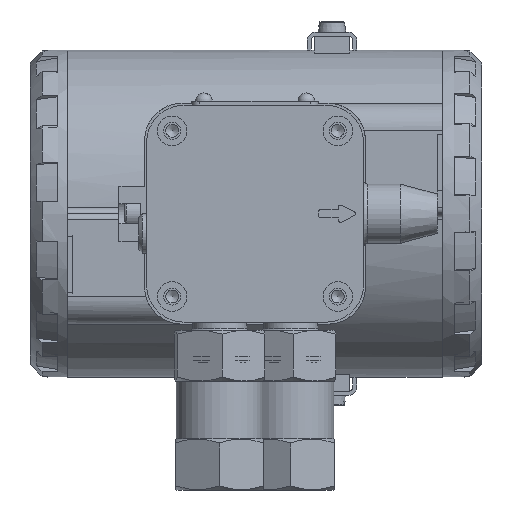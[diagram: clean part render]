
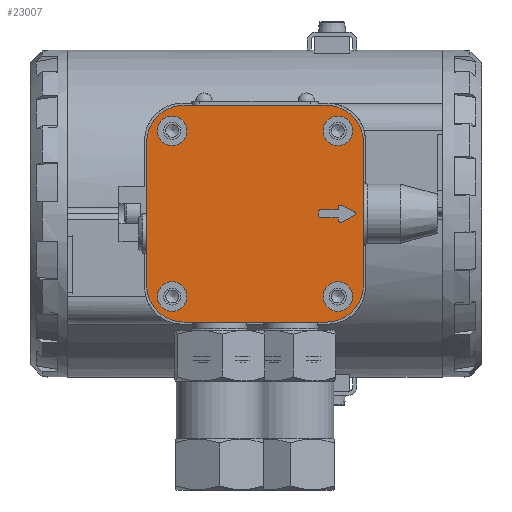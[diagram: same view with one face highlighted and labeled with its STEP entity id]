
A CAD part, left-side view. The second image highlights one B-rep face of the part: STEP entity #23007.
In plain terms, the highlighted planar face has unit normal (-1, 0, 0) as drawn and (0, 0, -1) by its records, which use the part's own axes.
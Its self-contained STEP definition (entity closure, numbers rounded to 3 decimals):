
#1140=FACE_BOUND('',#4001,.T.);
#1141=FACE_BOUND('',#4002,.T.);
#1142=FACE_BOUND('',#4003,.T.);
#1143=FACE_BOUND('',#4004,.T.);
#1144=FACE_BOUND('',#4005,.T.);
#1468=PLANE('',#26352);
#2481=FACE_OUTER_BOUND('',#4000,.T.);
#4000=EDGE_LOOP('',(#18716,#18717,#18718,#18719,#18720,#18721,#18722,#18723));
#4001=EDGE_LOOP('',(#18724,#18725,#18726,#18727,#18728,#18729,#18730,#18731,
#18732,#18733,#18734,#18735));
#4002=EDGE_LOOP('',(#18736));
#4003=EDGE_LOOP('',(#18737));
#4004=EDGE_LOOP('',(#18738));
#4005=EDGE_LOOP('',(#18739));
#5717=CIRCLE('',#26262,0.5);
#5719=CIRCLE('',#26266,0.5);
#5721=CIRCLE('',#26271,0.5);
#5723=CIRCLE('',#26275,0.5);
#5725=CIRCLE('',#26279,0.5);
#5726=CIRCLE('',#26283,3.75);
#5729=CIRCLE('',#26288,3.75);
#5732=CIRCLE('',#26293,3.75);
#5735=CIRCLE('',#26298,3.75);
#5759=CIRCLE('',#26339,9.5);
#5761=CIRCLE('',#26342,9.5);
#5763=CIRCLE('',#26346,9.5);
#5765=CIRCLE('',#26350,9.5);
#6860=LINE('',#40047,#8278);
#6864=LINE('',#40059,#8282);
#6868=LINE('',#40071,#8286);
#6871=LINE('',#40077,#8289);
#6875=LINE('',#40089,#8293);
#6879=LINE('',#40101,#8297);
#6883=LINE('',#40111,#8301);
#6897=LINE('',#40248,#8315);
#6906=LINE('',#40282,#8324);
#6910=LINE('',#40294,#8328);
#6913=LINE('',#40303,#8331);
#8278=VECTOR('',#31615,10.);
#8282=VECTOR('',#31627,10.);
#8286=VECTOR('',#31639,10.);
#8289=VECTOR('',#31644,10.);
#8293=VECTOR('',#31656,10.);
#8297=VECTOR('',#31668,10.);
#8301=VECTOR('',#31680,10.);
#8315=VECTOR('',#31790,10.);
#8324=VECTOR('',#31829,10.);
#8328=VECTOR('',#31841,10.);
#8331=VECTOR('',#31852,10.);
#10583=VERTEX_POINT('',#40044);
#10584=VERTEX_POINT('',#40046);
#10586=VERTEX_POINT('',#40052);
#10588=VERTEX_POINT('',#40058);
#10590=VERTEX_POINT('',#40064);
#10592=VERTEX_POINT('',#40070);
#10594=VERTEX_POINT('',#40076);
#10596=VERTEX_POINT('',#40082);
#10598=VERTEX_POINT('',#40088);
#10600=VERTEX_POINT('',#40094);
#10602=VERTEX_POINT('',#40100);
#10604=VERTEX_POINT('',#40106);
#10605=VERTEX_POINT('',#40114);
#10608=VERTEX_POINT('',#40123);
#10611=VERTEX_POINT('',#40132);
#10614=VERTEX_POINT('',#40141);
#10638=VERTEX_POINT('',#40245);
#10639=VERTEX_POINT('',#40247);
#10645=VERTEX_POINT('',#40268);
#10647=VERTEX_POINT('',#40274);
#10649=VERTEX_POINT('',#40280);
#10651=VERTEX_POINT('',#40286);
#10653=VERTEX_POINT('',#40292);
#10655=VERTEX_POINT('',#40298);
#13438=EDGE_CURVE('',#10584,#10583,#6860,.T.);
#13441=EDGE_CURVE('',#10586,#10584,#5717,.T.);
#13444=EDGE_CURVE('',#10588,#10586,#6864,.T.);
#13447=EDGE_CURVE('',#10590,#10588,#5719,.T.);
#13450=EDGE_CURVE('',#10592,#10590,#6868,.T.);
#13453=EDGE_CURVE('',#10594,#10592,#6871,.T.);
#13456=EDGE_CURVE('',#10596,#10594,#5721,.T.);
#13459=EDGE_CURVE('',#10598,#10596,#6875,.T.);
#13462=EDGE_CURVE('',#10600,#10598,#5723,.T.);
#13465=EDGE_CURVE('',#10602,#10600,#6879,.T.);
#13468=EDGE_CURVE('',#10604,#10602,#5725,.T.);
#13471=EDGE_CURVE('',#10583,#10604,#6883,.T.);
#13472=EDGE_CURVE('',#10605,#10605,#5726,.T.);
#13476=EDGE_CURVE('',#10608,#10608,#5729,.T.);
#13480=EDGE_CURVE('',#10611,#10611,#5732,.T.);
#13484=EDGE_CURVE('',#10614,#10614,#5735,.T.);
#13517=EDGE_CURVE('',#10638,#10639,#6897,.T.);
#13527=EDGE_CURVE('',#10639,#10645,#5759,.T.);
#13531=EDGE_CURVE('',#10647,#10638,#5761,.T.);
#13534=EDGE_CURVE('',#10649,#10647,#6906,.T.);
#13537=EDGE_CURVE('',#10651,#10649,#5763,.T.);
#13540=EDGE_CURVE('',#10653,#10651,#6910,.T.);
#13543=EDGE_CURVE('',#10655,#10653,#5765,.T.);
#13545=EDGE_CURVE('',#10645,#10655,#6913,.T.);
#18716=ORIENTED_EDGE('',*,*,#13545,.F.);
#18717=ORIENTED_EDGE('',*,*,#13527,.F.);
#18718=ORIENTED_EDGE('',*,*,#13517,.F.);
#18719=ORIENTED_EDGE('',*,*,#13531,.F.);
#18720=ORIENTED_EDGE('',*,*,#13534,.F.);
#18721=ORIENTED_EDGE('',*,*,#13537,.F.);
#18722=ORIENTED_EDGE('',*,*,#13540,.F.);
#18723=ORIENTED_EDGE('',*,*,#13543,.F.);
#18724=ORIENTED_EDGE('',*,*,#13438,.T.);
#18725=ORIENTED_EDGE('',*,*,#13471,.T.);
#18726=ORIENTED_EDGE('',*,*,#13468,.T.);
#18727=ORIENTED_EDGE('',*,*,#13465,.T.);
#18728=ORIENTED_EDGE('',*,*,#13462,.T.);
#18729=ORIENTED_EDGE('',*,*,#13459,.T.);
#18730=ORIENTED_EDGE('',*,*,#13456,.T.);
#18731=ORIENTED_EDGE('',*,*,#13453,.T.);
#18732=ORIENTED_EDGE('',*,*,#13450,.T.);
#18733=ORIENTED_EDGE('',*,*,#13447,.T.);
#18734=ORIENTED_EDGE('',*,*,#13444,.T.);
#18735=ORIENTED_EDGE('',*,*,#13441,.T.);
#18736=ORIENTED_EDGE('',*,*,#13472,.T.);
#18737=ORIENTED_EDGE('',*,*,#13476,.T.);
#18738=ORIENTED_EDGE('',*,*,#13480,.T.);
#18739=ORIENTED_EDGE('',*,*,#13484,.T.);
#23007=ADVANCED_FACE('',(#2481,#1140,#1141,#1142,#1143,#1144),#1468,.F.);
#26262=AXIS2_PLACEMENT_3D('',#40053,#31621,#31622);
#26266=AXIS2_PLACEMENT_3D('',#40065,#31633,#31634);
#26271=AXIS2_PLACEMENT_3D('',#40083,#31650,#31651);
#26275=AXIS2_PLACEMENT_3D('',#40095,#31662,#31663);
#26279=AXIS2_PLACEMENT_3D('',#40107,#31674,#31675);
#26283=AXIS2_PLACEMENT_3D('',#40115,#31685,#31686);
#26288=AXIS2_PLACEMENT_3D('',#40124,#31696,#31697);
#26293=AXIS2_PLACEMENT_3D('',#40133,#31707,#31708);
#26298=AXIS2_PLACEMENT_3D('',#40142,#31718,#31719);
#26339=AXIS2_PLACEMENT_3D('',#40269,#31815,#31816);
#26342=AXIS2_PLACEMENT_3D('',#40276,#31823,#31824);
#26346=AXIS2_PLACEMENT_3D('',#40288,#31835,#31836);
#26350=AXIS2_PLACEMENT_3D('',#40300,#31847,#31848);
#26352=AXIS2_PLACEMENT_3D('',#40304,#31853,#31854);
#31615=DIRECTION('',(1.,0.,0.));
#31621=DIRECTION('center_axis',(0.,0.,1.));
#31622=DIRECTION('ref_axis',(0.,-1.,0.));
#31627=DIRECTION('',(0.,-1.,0.));
#31633=DIRECTION('center_axis',(0.,0.,1.));
#31634=DIRECTION('ref_axis',(-1.,0.,0.));
#31639=DIRECTION('',(-1.,0.,0.));
#31644=DIRECTION('',(0.,-1.,0.));
#31650=DIRECTION('center_axis',(0.,0.,1.));
#31651=DIRECTION('ref_axis',(-1.,0.,0.));
#31656=DIRECTION('',(-0.894,0.447,0.));
#31662=DIRECTION('center_axis',(0.,0.,1.));
#31663=DIRECTION('ref_axis',(0.447,0.894,0.));
#31668=DIRECTION('',(0.894,0.447,0.));
#31674=DIRECTION('center_axis',(0.,0.,1.));
#31675=DIRECTION('ref_axis',(0.447,-0.894,0.));
#31680=DIRECTION('',(0.,-1.,0.));
#31685=DIRECTION('center_axis',(0.,0.,1.));
#31686=DIRECTION('ref_axis',(1.,0.,0.));
#31696=DIRECTION('center_axis',(0.,0.,1.));
#31697=DIRECTION('ref_axis',(1.,0.,0.));
#31707=DIRECTION('center_axis',(0.,0.,1.));
#31708=DIRECTION('ref_axis',(1.,0.,0.));
#31718=DIRECTION('center_axis',(0.,0.,1.));
#31719=DIRECTION('ref_axis',(1.,0.,0.));
#31790=DIRECTION('',(0.,1.,0.));
#31815=DIRECTION('center_axis',(0.,0.,1.));
#31816=DIRECTION('ref_axis',(1.,0.,0.));
#31823=DIRECTION('center_axis',(0.,0.,1.));
#31824=DIRECTION('ref_axis',(0.,-1.,0.));
#31829=DIRECTION('',(1.,0.,0.));
#31835=DIRECTION('center_axis',(0.,0.,1.));
#31836=DIRECTION('ref_axis',(-1.,0.,0.));
#31841=DIRECTION('',(0.,-1.,0.));
#31847=DIRECTION('center_axis',(0.,0.,1.));
#31848=DIRECTION('ref_axis',(0.,1.,0.));
#31852=DIRECTION('',(-1.,0.,0.));
#31853=DIRECTION('center_axis',(0.,0.,1.));
#31854=DIRECTION('ref_axis',(1.,0.,0.));
#40044=CARTESIAN_POINT('',(21.109,-1.,0.));
#40046=CARTESIAN_POINT('',(16.609,-1.,0.));
#40047=CARTESIAN_POINT('',(10.554,-1.,0.));
#40052=CARTESIAN_POINT('',(16.109,-0.5,0.));
#40053=CARTESIAN_POINT('Origin',(16.609,-0.5,0.));
#40058=CARTESIAN_POINT('',(16.109,0.5,0.));
#40059=CARTESIAN_POINT('',(16.109,-0.25,0.));
#40064=CARTESIAN_POINT('',(16.609,1.,0.));
#40065=CARTESIAN_POINT('Origin',(16.609,0.5,0.));
#40070=CARTESIAN_POINT('',(21.109,1.,0.));
#40071=CARTESIAN_POINT('',(8.304,1.,0.));
#40076=CARTESIAN_POINT('',(21.109,1.691,0.));
#40077=CARTESIAN_POINT('',(21.109,0.5,0.));
#40082=CARTESIAN_POINT('',(21.833,2.138,0.));
#40083=CARTESIAN_POINT('Origin',(21.609,1.691,0.));
#40088=CARTESIAN_POINT('',(25.214,0.447,0.));
#40089=CARTESIAN_POINT('',(13.527,6.291,0.));
#40094=CARTESIAN_POINT('',(25.214,-0.447,0.));
#40095=CARTESIAN_POINT('Origin',(24.991,0.,0.));
#40100=CARTESIAN_POINT('',(21.833,-2.138,0.));
#40101=CARTESIAN_POINT('',(15.218,-5.445,0.));
#40106=CARTESIAN_POINT('',(21.109,-1.691,0.));
#40107=CARTESIAN_POINT('Origin',(21.609,-1.691,0.));
#40111=CARTESIAN_POINT('',(21.109,-0.845,0.));
#40114=CARTESIAN_POINT('',(-24.75,-21.,0.));
#40115=CARTESIAN_POINT('Origin',(-21.,-21.,0.));
#40123=CARTESIAN_POINT('',(-24.75,21.,0.));
#40124=CARTESIAN_POINT('Origin',(-21.,21.,0.));
#40132=CARTESIAN_POINT('',(17.25,21.,0.));
#40133=CARTESIAN_POINT('Origin',(21.,21.,0.));
#40141=CARTESIAN_POINT('',(17.25,-21.,0.));
#40142=CARTESIAN_POINT('Origin',(21.,-21.,0.));
#40245=CARTESIAN_POINT('',(27.5,-18.,0.));
#40247=CARTESIAN_POINT('',(27.5,18.,0.));
#40248=CARTESIAN_POINT('',(27.5,-18.,0.));
#40268=CARTESIAN_POINT('',(18.,27.5,0.));
#40269=CARTESIAN_POINT('Origin',(18.,18.,0.));
#40274=CARTESIAN_POINT('',(18.,-27.5,0.));
#40276=CARTESIAN_POINT('Origin',(18.,-18.,0.));
#40280=CARTESIAN_POINT('',(-18.,-27.5,0.));
#40282=CARTESIAN_POINT('',(-18.,-27.5,0.));
#40286=CARTESIAN_POINT('',(-27.5,-18.,0.));
#40288=CARTESIAN_POINT('Origin',(-18.,-18.,0.));
#40292=CARTESIAN_POINT('',(-27.5,18.,0.));
#40294=CARTESIAN_POINT('',(-27.5,18.,0.));
#40298=CARTESIAN_POINT('',(-18.,27.5,0.));
#40300=CARTESIAN_POINT('Origin',(-18.,18.,0.));
#40303=CARTESIAN_POINT('',(18.,27.5,0.));
#40304=CARTESIAN_POINT('Origin',(0.,0.,0.));
